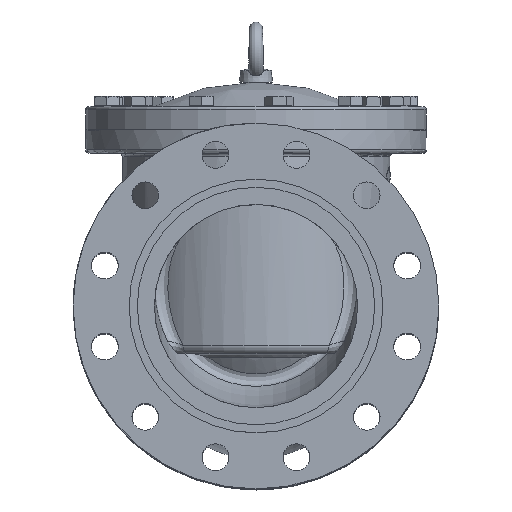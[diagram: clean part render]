
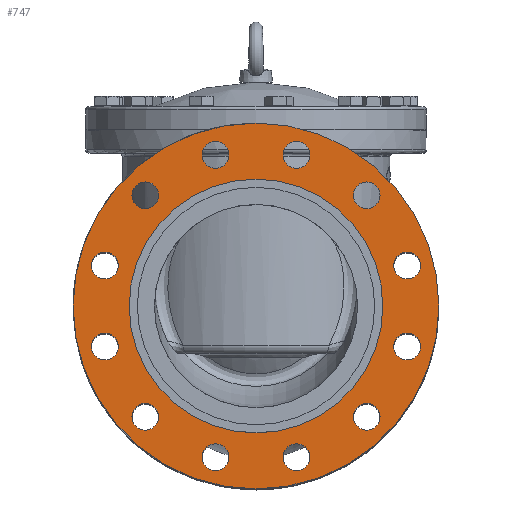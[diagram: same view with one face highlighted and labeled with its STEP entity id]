
A CAD part, top view. The second image highlights one B-rep face of the part: STEP entity #747.
In plain terms, the highlighted planar face has unit normal (0, 0, 1).
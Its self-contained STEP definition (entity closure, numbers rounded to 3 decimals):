
#747=ADVANCED_FACE('',(#4310,#4312,#4314,#4316,#4318,#4320,#4322,#4324,#4326,#4328,
#4330,#4332,#4334,#4336),#4338,.T.);
#4310=FACE_BOUND('',#4311,.T.);
#4311=EDGE_LOOP('',(#52422));
#4312=FACE_BOUND('',#4313,.T.);
#4313=EDGE_LOOP('',(#52423));
#4314=FACE_BOUND('',#4315,.T.);
#4315=EDGE_LOOP('',(#52424));
#4316=FACE_BOUND('',#4317,.T.);
#4317=EDGE_LOOP('',(#52425));
#4318=FACE_BOUND('',#4319,.T.);
#4319=EDGE_LOOP('',(#52426));
#4320=FACE_BOUND('',#4321,.T.);
#4321=EDGE_LOOP('',(#52427));
#4322=FACE_BOUND('',#4323,.T.);
#4323=EDGE_LOOP('',(#52428));
#4324=FACE_BOUND('',#4325,.T.);
#4325=EDGE_LOOP('',(#52429));
#4326=FACE_BOUND('',#4327,.T.);
#4327=EDGE_LOOP('',(#52430));
#4328=FACE_BOUND('',#4329,.T.);
#4329=EDGE_LOOP('',(#52431));
#4330=FACE_BOUND('',#4331,.T.);
#4331=EDGE_LOOP('',(#52432));
#4332=FACE_BOUND('',#4333,.T.);
#4333=EDGE_LOOP('',(#52433));
#4334=FACE_BOUND('',#4335,.T.);
#4335=EDGE_LOOP('',(#52434));
#4336=FACE_BOUND('',#4337,.T.);
#4337=EDGE_LOOP('',(#52435));
#4338=PLANE('',#4339);
#4339=AXIS2_PLACEMENT_3D('',#4340,#4341,#4342);
#4340=CARTESIAN_POINT('',(0.,0.,360.));
#4341=DIRECTION('',(0.,0.,1.));
#4342=DIRECTION('',(0.,1.,0.));
#52422=ORIENTED_EDGE('',*,*,#54301,.F.);
#52423=ORIENTED_EDGE('',*,*,#54293,.T.);
#52424=ORIENTED_EDGE('',*,*,#54294,.T.);
#52425=ORIENTED_EDGE('',*,*,#54299,.T.);
#52426=ORIENTED_EDGE('',*,*,#54291,.T.);
#52427=ORIENTED_EDGE('',*,*,#54288,.T.);
#52428=ORIENTED_EDGE('',*,*,#54296,.T.);
#52429=ORIENTED_EDGE('',*,*,#54297,.T.);
#52430=ORIENTED_EDGE('',*,*,#54295,.T.);
#52431=ORIENTED_EDGE('',*,*,#54290,.T.);
#52432=ORIENTED_EDGE('',*,*,#54298,.T.);
#52433=ORIENTED_EDGE('',*,*,#54292,.T.);
#52434=ORIENTED_EDGE('',*,*,#54289,.T.);
#52435=ORIENTED_EDGE('',*,*,#54302,.T.);
#54288=EDGE_CURVE('',#55684,#55684,#55685,.T.);
#54289=EDGE_CURVE('',#55686,#55686,#55687,.T.);
#54290=EDGE_CURVE('',#55688,#55688,#55689,.T.);
#54291=EDGE_CURVE('',#55690,#55690,#55691,.T.);
#54292=EDGE_CURVE('',#55692,#55692,#55693,.T.);
#54293=EDGE_CURVE('',#55694,#55694,#55695,.T.);
#54294=EDGE_CURVE('',#55696,#55696,#55697,.T.);
#54295=EDGE_CURVE('',#55698,#55698,#55699,.T.);
#54296=EDGE_CURVE('',#55700,#55700,#55701,.T.);
#54297=EDGE_CURVE('',#55702,#55702,#55703,.T.);
#54298=EDGE_CURVE('',#55704,#55704,#55705,.T.);
#54299=EDGE_CURVE('',#55706,#55706,#55707,.T.);
#54301=EDGE_CURVE('',#55710,#55710,#55711,.T.);
#54302=EDGE_CURVE('',#55712,#55712,#55713,.T.);
#55684=VERTEX_POINT('',#62731);
#55685=CIRCLE('',#62732,16.5);
#55686=VERTEX_POINT('',#62736);
#55687=CIRCLE('',#62737,16.5);
#55688=VERTEX_POINT('',#62741);
#55689=CIRCLE('',#62742,16.5);
#55690=VERTEX_POINT('',#62746);
#55691=CIRCLE('',#62747,16.5);
#55692=VERTEX_POINT('',#62751);
#55693=CIRCLE('',#62752,16.5);
#55694=VERTEX_POINT('',#62756);
#55695=CIRCLE('',#62757,16.5);
#55696=VERTEX_POINT('',#62761);
#55697=CIRCLE('',#62762,16.5);
#55698=VERTEX_POINT('',#62766);
#55699=CIRCLE('',#62767,16.5);
#55700=VERTEX_POINT('',#62771);
#55701=CIRCLE('',#62772,16.5);
#55702=VERTEX_POINT('',#62776);
#55703=CIRCLE('',#62777,16.5);
#55704=VERTEX_POINT('',#62781);
#55705=CIRCLE('',#62782,16.5);
#55706=VERTEX_POINT('',#62786);
#55707=CIRCLE('',#62787,16.5);
#55710=VERTEX_POINT('',#62796);
#55711=CIRCLE('',#62797,225.);
#55712=VERTEX_POINT('',#62801);
#55713=CIRCLE('',#62802,156.);
#62731=CARTESIAN_POINT('',(152.618,-136.118,360.));
#62732=AXIS2_PLACEMENT_3D('',#62733,#62734,#62735);
#62733=CARTESIAN_POINT('',(136.118,-136.118,360.));
#62734=DIRECTION('',(0.,0.,-1.));
#62735=DIRECTION('',(1.,0.,0.));
#62736=CARTESIAN_POINT('',(66.323,-185.941,360.));
#62737=AXIS2_PLACEMENT_3D('',#62738,#62739,#62740);
#62738=CARTESIAN_POINT('',(49.823,-185.941,360.));
#62739=DIRECTION('',(0.,0.,-1.));
#62740=DIRECTION('',(1.,0.,0.));
#62741=CARTESIAN_POINT('',(-33.323,-185.941,360.));
#62742=AXIS2_PLACEMENT_3D('',#62743,#62744,#62745);
#62743=CARTESIAN_POINT('',(-49.823,-185.941,360.));
#62744=DIRECTION('',(0.,0.,-1.));
#62745=DIRECTION('',(1.,0.,0.));
#62746=CARTESIAN_POINT('',(-119.618,-136.118,360.));
#62747=AXIS2_PLACEMENT_3D('',#62748,#62749,#62750);
#62748=CARTESIAN_POINT('',(-136.118,-136.118,360.));
#62749=DIRECTION('',(0.,0.,-1.));
#62750=DIRECTION('',(1.,0.,0.));
#62751=CARTESIAN_POINT('',(-169.441,-49.823,360.));
#62752=AXIS2_PLACEMENT_3D('',#62753,#62754,#62755);
#62753=CARTESIAN_POINT('',(-185.941,-49.823,360.));
#62754=DIRECTION('',(0.,0.,-1.));
#62755=DIRECTION('',(1.,0.,0.));
#62756=CARTESIAN_POINT('',(-169.441,49.823,360.));
#62757=AXIS2_PLACEMENT_3D('',#62758,#62759,#62760);
#62758=CARTESIAN_POINT('',(-185.941,49.823,360.));
#62759=DIRECTION('',(0.,0.,-1.));
#62760=DIRECTION('',(1.,0.,0.));
#62761=CARTESIAN_POINT('',(-119.618,136.118,360.));
#62762=AXIS2_PLACEMENT_3D('',#62763,#62764,#62765);
#62763=CARTESIAN_POINT('',(-136.118,136.118,360.));
#62764=DIRECTION('',(0.,0.,-1.));
#62765=DIRECTION('',(1.,0.,0.));
#62766=CARTESIAN_POINT('',(-33.323,185.941,360.));
#62767=AXIS2_PLACEMENT_3D('',#62768,#62769,#62770);
#62768=CARTESIAN_POINT('',(-49.823,185.941,360.));
#62769=DIRECTION('',(0.,0.,-1.));
#62770=DIRECTION('',(1.,0.,0.));
#62771=CARTESIAN_POINT('',(66.323,185.941,360.));
#62772=AXIS2_PLACEMENT_3D('',#62773,#62774,#62775);
#62773=CARTESIAN_POINT('',(49.823,185.941,360.));
#62774=DIRECTION('',(0.,0.,-1.));
#62775=DIRECTION('',(1.,0.,0.));
#62776=CARTESIAN_POINT('',(152.618,136.118,360.));
#62777=AXIS2_PLACEMENT_3D('',#62778,#62779,#62780);
#62778=CARTESIAN_POINT('',(136.118,136.118,360.));
#62779=DIRECTION('',(0.,0.,-1.));
#62780=DIRECTION('',(1.,0.,0.));
#62781=CARTESIAN_POINT('',(202.441,49.823,360.));
#62782=AXIS2_PLACEMENT_3D('',#62783,#62784,#62785);
#62783=CARTESIAN_POINT('',(185.941,49.823,360.));
#62784=DIRECTION('',(0.,0.,-1.));
#62785=DIRECTION('',(1.,0.,0.));
#62786=CARTESIAN_POINT('',(202.441,-49.823,360.));
#62787=AXIS2_PLACEMENT_3D('',#62788,#62789,#62790);
#62788=CARTESIAN_POINT('',(185.941,-49.823,360.));
#62789=DIRECTION('',(0.,0.,-1.));
#62790=DIRECTION('',(1.,0.,0.));
#62796=CARTESIAN_POINT('',(0.,225.,360.));
#62797=AXIS2_PLACEMENT_3D('',#62798,#62799,#62800);
#62798=CARTESIAN_POINT('',(0.,0.,360.));
#62799=DIRECTION('',(0.,0.,-1.));
#62800=DIRECTION('',(0.,1.,0.));
#62801=CARTESIAN_POINT('',(0.,156.,360.));
#62802=AXIS2_PLACEMENT_3D('',#62803,#62804,#62805);
#62803=CARTESIAN_POINT('',(0.,0.,360.));
#62804=DIRECTION('',(0.,0.,-1.));
#62805=DIRECTION('',(0.,1.,0.));
